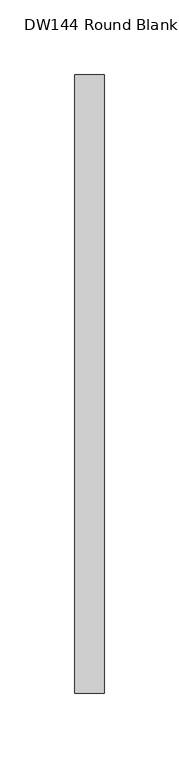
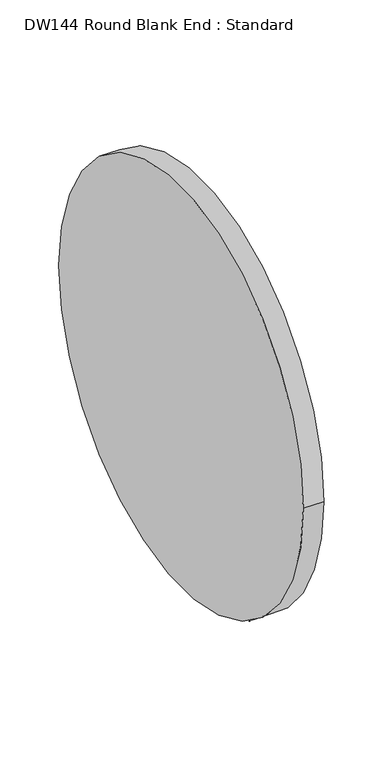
"""IFC4 building model written with IfcOpenShell, lengths in millimetres: duct fitting geometry, DW144 Round Blank End : Standard."""

from ifc_helpers import new_model, si_unit, point, frame, origin, origin_2d, place, context, project, spatial, circle_curve, trimmed, segment, composite_curve, outline, extrude, source, transform, mapped, element, save


def dw144_round_blank_end_standard_4853e871(model_context):
    return source(origin(), model_context, "Body", "SweptSolid", [
        extrude(outline(composite_curve([segment(trimmed(circle_curve(origin_2d(), 207.5), [point((207.5, 0.0))], [point((-207.5, 0.0))], False, "CARTESIAN"), True, "CONTINUOUS"), segment(trimmed(circle_curve(origin_2d(), 207.5), [point((-207.5, 0.0))], [point((207.5, 0.0))], False, "CARTESIAN"), True, "CONTINUOUS")], self_intersect=False)), frame((0.0, 0.0, 0.0), z_axis=(1.0, 0.0, 0.0), x_axis=(0.0, 1.0, 0.0)), (0.0, 0.0, 1.0), 20.0),
    ])


if __name__ == "__main__":
    model = new_model("IFC4")
    model_context = context("Model", 3, world=origin())
    ifc_project = project(units=[si_unit("LENGTHUNIT", "METRE", prefix="MILLI")], contexts=[model_context])
    site = spatial("IfcSite", under=ifc_project)
    building = spatial("IfcBuilding", under=site)
    placement = place(None, origin())
    dw144_round_blank_end_standard_shape = dw144_round_blank_end_standard_4853e871(model_context)
    element("IfcDuctFitting", 1, ObjectType="DW144 Round Blank End : Standard", at=placement, inside=building, context=model_context, shape_type="MappedRepresentation", body=[
        mapped(dw144_round_blank_end_standard_shape, transform((0.0, 0.0, 0.0), x_axis=(1.0, 0.0, 0.0), y_axis=(0.0, 1.0, 0.0), z_axis=(0.0, 0.0, 1.0))),
    ])
    save(model, "model.ifc")
